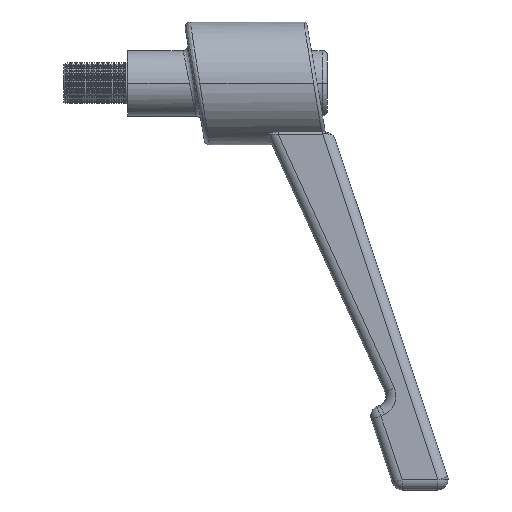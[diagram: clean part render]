
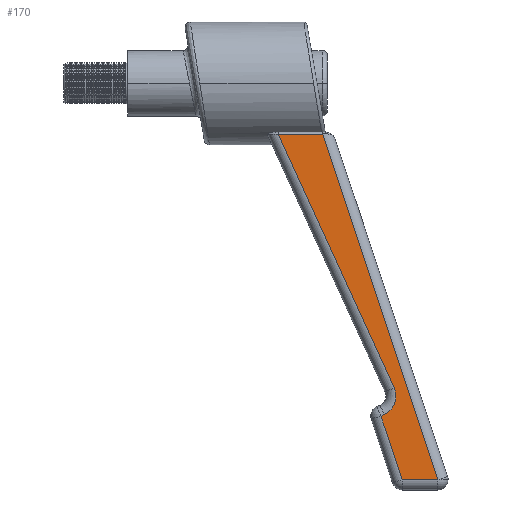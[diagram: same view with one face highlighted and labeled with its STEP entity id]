
A CAD part, top view. The second image highlights one B-rep face of the part: STEP entity #170.
In plain terms, the highlighted planar face has unit normal (0, 0, 1).
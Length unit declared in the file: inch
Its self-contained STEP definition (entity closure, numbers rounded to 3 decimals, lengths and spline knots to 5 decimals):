
#65 = EDGE_CURVE ( 'NONE', #1542, #1535, #2169, .T. ) ;
#97 = EDGE_CURVE ( 'NONE', #1643, #1541, #2194, .T. ) ;
#109 = EDGE_CURVE ( 'NONE', #1643, #1630, #2184, .T. ) ;
#111 = EDGE_CURVE ( 'NONE', #1535, #1630, #2237, .T. ) ;
#114 = EDGE_CURVE ( 'NONE', #1541, #1619, #2203, .T. ) ;
#116 = EDGE_CURVE ( 'NONE', #1619, #1556, #2209, .T. ) ;
#126 = EDGE_CURVE ( 'NONE', #1556, #1542, #2256, .T. ) ;
#170 = ADVANCED_FACE ( 'NONE', ( #2302 ), #3232, .F. ) ;
#371 = DIRECTION ( 'NONE',  ( -1., 0., 0. ) ) ;
#373 = CARTESIAN_POINT ( 'NONE',  ( 0.41223, -0.31, 0.25 ) ) ;
#1471 = AXIS2_PLACEMENT_3D ( 'NONE', #2821, #2822, #2842 ) ;
#1535 = VERTEX_POINT ( 'NONE', #6543 ) ;
#1541 = VERTEX_POINT ( 'NONE', #6529 ) ;
#1542 = VERTEX_POINT ( 'NONE', #6559 ) ;
#1556 = VERTEX_POINT ( 'NONE', #6554 ) ;
#1619 = VERTEX_POINT ( 'NONE', #6618 ) ;
#1630 = VERTEX_POINT ( 'NONE', #6585 ) ;
#1643 = VERTEX_POINT ( 'NONE', #6668 ) ;
#1800 = ORIENTED_EDGE ( 'NONE', *, *, #116, .T. ) ;
#1811 = ORIENTED_EDGE ( 'NONE', *, *, #65, .T. ) ;
#1823 = ORIENTED_EDGE ( 'NONE', *, *, #126, .T. ) ;
#1825 = ORIENTED_EDGE ( 'NONE', *, *, #111, .T. ) ;
#1848 = ORIENTED_EDGE ( 'NONE', *, *, #97, .T. ) ;
#1849 = ORIENTED_EDGE ( 'NONE', *, *, #114, .T. ) ;
#1873 = ORIENTED_EDGE ( 'NONE', *, *, #109, .F. ) ;
#2148 = VECTOR ( 'NONE', #371, 39.37008 ) ;
#2169 = LINE ( 'NONE', #373, #2148 ) ;
#2183 = VECTOR ( 'NONE', #2985, 39.37008 ) ;
#2184 = CIRCLE ( 'NONE', #1471, 0.124 ) ;
#2194 = LINE ( 'NONE', #2841, #2196 ) ;
#2196 = VECTOR ( 'NONE', #2825, 39.37008 ) ;
#2200 = VECTOR ( 'NONE', #2977, 39.37008 ) ;
#2203 = LINE ( 'NONE', #2970, #2183 ) ;
#2209 = LINE ( 'NONE', #2989, #2214 ) ;
#2214 = VECTOR ( 'NONE', #2979, 39.37008 ) ;
#2237 = LINE ( 'NONE', #2820, #2200 ) ;
#2247 = VECTOR ( 'NONE', #2885, 39.37008 ) ;
#2256 = LINE ( 'NONE', #2903, #2247 ) ;
#2302 = FACE_OUTER_BOUND ( 'NONE', #6749, .T. ) ;
#2820 = CARTESIAN_POINT ( 'NONE',  ( 0.64526, -2.37801, 0.25 ) ) ;
#2821 = CARTESIAN_POINT ( 'NONE',  ( 0.29542, -1.91097, 0.25 ) ) ;
#2822 = DIRECTION ( 'NONE',  ( 0., 0., 1. ) ) ;
#2825 = DIRECTION ( 'NONE',  ( -0.909, -0.416, 0. ) ) ;
#2841 = CARTESIAN_POINT ( 'NONE',  ( 0.22672, -2.07872, 0.25 ) ) ;
#2842 = DIRECTION ( 'NONE',  ( -1., 0., 0. ) ) ;
#2885 = DIRECTION ( 'NONE',  ( -0.316, 0.949, 0. ) ) ;
#2903 = CARTESIAN_POINT ( 'NONE',  ( 0.66777, -2.39936, 0.25 ) ) ;
#2970 = CARTESIAN_POINT ( 'NONE',  ( 0.47107, -2.46498, 0.25 ) ) ;
#2977 = DIRECTION ( 'NONE',  ( 0.416, -0.909, 0. ) ) ;
#2979 = DIRECTION ( 'NONE',  ( 1., 0., 0. ) ) ;
#2985 = DIRECTION ( 'NONE',  ( 0.315, -0.949, 0. ) ) ;
#2989 = CARTESIAN_POINT ( 'NONE',  ( 0.41223, -2.42254, 0.25 ) ) ;
#3189 = DIRECTION ( 'NONE',  ( 0., 0., -1. ) ) ;
#3196 = DIRECTION ( 'NONE',  ( -1., 0., 0. ) ) ;
#3203 = CARTESIAN_POINT ( 'NONE',  ( 0.41223, -2.48454, 0.25 ) ) ;
#3232 = PLANE ( 'NONE',  #3364 ) ;
#3364 = AXIS2_PLACEMENT_3D ( 'NONE', #3203, #3189, #3196 ) ;
#6529 = CARTESIAN_POINT ( 'NONE',  ( 0.32739, -2.03269, 0.25 ) ) ;
#6543 = CARTESIAN_POINT ( 'NONE',  ( -0.30011, -0.31, 0.25 ) ) ;
#6554 = CARTESIAN_POINT ( 'NONE',  ( 0.67549, -2.42254, 0.25 ) ) ;
#6559 = CARTESIAN_POINT ( 'NONE',  ( -0.02869, -0.31, 0.25 ) ) ;
#6585 = CARTESIAN_POINT ( 'NONE',  ( 0.40819, -1.85942, 0.25 ) ) ;
#6618 = CARTESIAN_POINT ( 'NONE',  ( 0.45696, -2.42254, 0.25 ) ) ;
#6668 = CARTESIAN_POINT ( 'NONE',  ( 0.34697, -2.02374, 0.25 ) ) ;
#6749 = EDGE_LOOP ( 'NONE', ( #1823, #1811, #1825, #1873, #1848, #1849, #1800 ) ) ;
